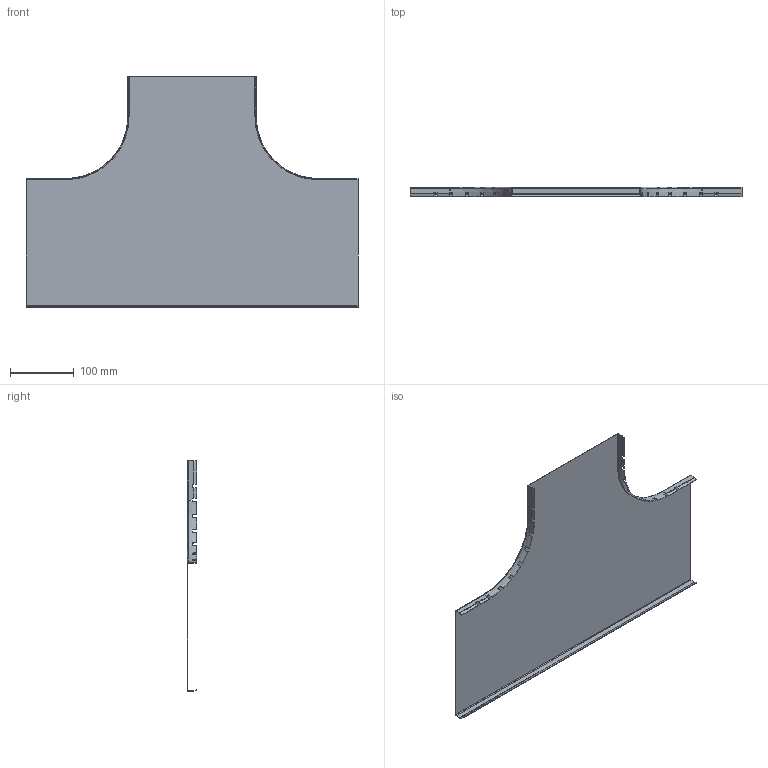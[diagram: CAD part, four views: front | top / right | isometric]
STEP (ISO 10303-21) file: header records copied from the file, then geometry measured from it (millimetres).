
FILE_DESCRIPTION (( 'STEP AP203' ), '1' );
FILE_NAME ('TTERC 200.STEP', '2020-02-12T08:34:52', ( '' ), ( '' ), 'SwSTEP 2.0', 'SolidWorks 2019', '' );
FILE_SCHEMA (( 'CONFIG_CONTROL_DESIGN' ));
Length unit declared in the file: millimetre
Products named in the file (1): TTERC 200
Bounding box: 522 x 15.02 x 362.8 mm (x, y, z)
Volume: 124885.1 mm3; surface area: 313888.4 mm2
Topology: 1 solids, 1 shells, 224 faces, 546 edges, 324 vertices
Faces by surface type: plane 150, bspline 38, cylinder 32, torus 4
Entity records: 6884 total; most frequent: CARTESIAN_POINT 1824, ORIENTED_EDGE 1092, DIRECTION 933, EDGE_CURVE 546, VECTOR 351, LINE 351, VERTEX_POINT 324, AXIS2_PLACEMENT_3D 291
